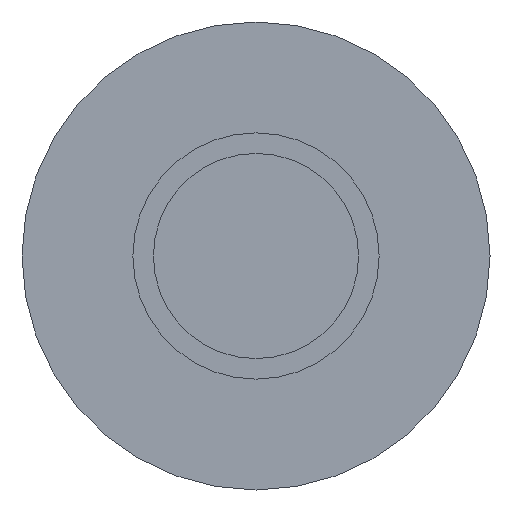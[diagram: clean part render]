
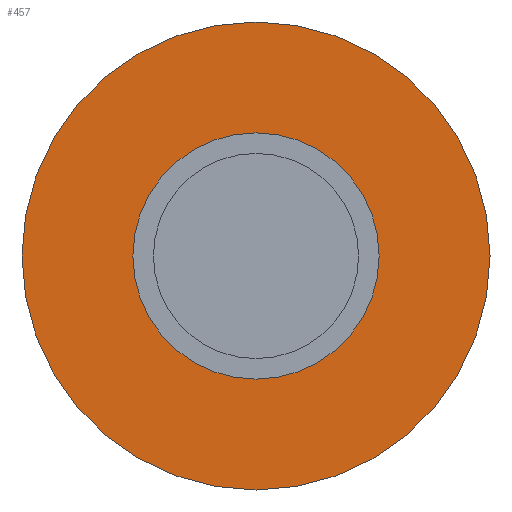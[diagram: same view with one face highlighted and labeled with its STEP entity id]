
A CAD part, front view. The second image highlights one B-rep face of the part: STEP entity #457.
In plain terms, the highlighted planar face has unit normal (0, -1, 0).
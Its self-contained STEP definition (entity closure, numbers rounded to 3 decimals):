
#33 = CYLINDRICAL_SURFACE('',#34,1.5);
#34 = AXIS2_PLACEMENT_3D('',#35,#36,#37);
#35 = CARTESIAN_POINT('',(0.,-37.55,0.));
#36 = DIRECTION('',(0.,1.,0.));
#37 = DIRECTION('',(0.,-0.,1.));
#58 = VERTEX_POINT('',#59);
#59 = CARTESIAN_POINT('',(0.,0.,-1.5));
#73 = CYLINDRICAL_SURFACE('',#74,1.5);
#74 = AXIS2_PLACEMENT_3D('',#75,#76,#77);
#75 = CARTESIAN_POINT('',(0.,-37.55,0.));
#76 = DIRECTION('',(0.,1.,0.));
#77 = DIRECTION('',(0.,-0.,1.));
#85 = EDGE_CURVE('',#58,#86,#88,.T.);
#86 = VERTEX_POINT('',#87);
#87 = CARTESIAN_POINT('',(0.,0.,1.5));
#88 = SURFACE_CURVE('',#89,(#94,#101),.PCURVE_S1.);
#89 = CIRCLE('',#90,1.5);
#90 = AXIS2_PLACEMENT_3D('',#91,#92,#93);
#91 = CARTESIAN_POINT('',(0.,0.,0.));
#92 = DIRECTION('',(0.,-1.,0.));
#93 = DIRECTION('',(0.,0.,1.));
#94 = PCURVE('',#33,#95);
#95 = DEFINITIONAL_REPRESENTATION('',(#96),#100);
#96 = LINE('',#97,#98);
#97 = CARTESIAN_POINT('',(6.283,37.55));
#98 = VECTOR('',#99,1.);
#99 = DIRECTION('',(-1.,0.));
#100 = ( GEOMETRIC_REPRESENTATION_CONTEXT(2) 
PARAMETRIC_REPRESENTATION_CONTEXT() REPRESENTATION_CONTEXT('2D SPACE',''
  ) );
#101 = PCURVE('',#102,#107);
#102 = PLANE('',#103);
#103 = AXIS2_PLACEMENT_3D('',#104,#105,#106);
#104 = CARTESIAN_POINT('',(0.,0.,0.));
#105 = DIRECTION('',(0.,1.,0.));
#106 = DIRECTION('',(0.,-0.,1.));
#107 = DEFINITIONAL_REPRESENTATION('',(#108),#116);
#108 = ( BOUNDED_CURVE() B_SPLINE_CURVE(2,(#109,#110,#111,#112,#113,#114
,#115),.UNSPECIFIED.,.T.,.F.) B_SPLINE_CURVE_WITH_KNOTS((1,2,2,2,2,1),(
    -2.094,0.,2.094,4.189,6.283,
8.378),.UNSPECIFIED.) CURVE() GEOMETRIC_REPRESENTATION_ITEM() 
RATIONAL_B_SPLINE_CURVE((1.,0.5,1.,0.5,1.,0.5,1.)) REPRESENTATION_ITEM(
  '') );
#109 = CARTESIAN_POINT('',(1.5,0.));
#110 = CARTESIAN_POINT('',(1.5,-2.598));
#111 = CARTESIAN_POINT('',(-0.75,-1.299));
#112 = CARTESIAN_POINT('',(-3.,0.));
#113 = CARTESIAN_POINT('',(-0.75,1.299));
#114 = CARTESIAN_POINT('',(1.5,2.598));
#115 = CARTESIAN_POINT('',(1.5,0.));
#116 = ( GEOMETRIC_REPRESENTATION_CONTEXT(2) 
PARAMETRIC_REPRESENTATION_CONTEXT() REPRESENTATION_CONTEXT('2D SPACE',''
  ) );
#258 = EDGE_CURVE('',#259,#261,#263,.T.);
#259 = VERTEX_POINT('',#260);
#260 = CARTESIAN_POINT('',(0.,0.,2.85));
#261 = VERTEX_POINT('',#262);
#262 = CARTESIAN_POINT('',(0.,0.,-2.85));
#263 = SURFACE_CURVE('',#264,(#269,#281),.PCURVE_S1.);
#264 = CIRCLE('',#265,2.85);
#265 = AXIS2_PLACEMENT_3D('',#266,#267,#268);
#266 = CARTESIAN_POINT('',(0.,0.,0.));
#267 = DIRECTION('',(0.,1.,0.));
#268 = DIRECTION('',(0.,-0.,1.));
#269 = PCURVE('',#270,#275);
#270 = CYLINDRICAL_SURFACE('',#271,2.85);
#271 = AXIS2_PLACEMENT_3D('',#272,#273,#274);
#272 = CARTESIAN_POINT('',(0.,0.,0.));
#273 = DIRECTION('',(0.,1.,0.));
#274 = DIRECTION('',(0.,-0.,1.));
#275 = DEFINITIONAL_REPRESENTATION('',(#276),#280);
#276 = LINE('',#277,#278);
#277 = CARTESIAN_POINT('',(0.,0.));
#278 = VECTOR('',#279,1.);
#279 = DIRECTION('',(1.,0.));
#280 = ( GEOMETRIC_REPRESENTATION_CONTEXT(2) 
PARAMETRIC_REPRESENTATION_CONTEXT() REPRESENTATION_CONTEXT('2D SPACE',''
  ) );
#281 = PCURVE('',#102,#282);
#282 = DEFINITIONAL_REPRESENTATION('',(#283),#287);
#283 = CIRCLE('',#284,2.85);
#284 = AXIS2_PLACEMENT_2D('',#285,#286);
#285 = CARTESIAN_POINT('',(0.,0.));
#286 = DIRECTION('',(1.,0.));
#287 = ( GEOMETRIC_REPRESENTATION_CONTEXT(2) 
PARAMETRIC_REPRESENTATION_CONTEXT() REPRESENTATION_CONTEXT('2D SPACE',''
  ) );
#305 = CYLINDRICAL_SURFACE('',#306,2.85);
#306 = AXIS2_PLACEMENT_3D('',#307,#308,#309);
#307 = CARTESIAN_POINT('',(0.,0.,0.));
#308 = DIRECTION('',(0.,1.,0.));
#309 = DIRECTION('',(0.,-0.,1.));
#398 = EDGE_CURVE('',#86,#58,#399,.T.);
#399 = SURFACE_CURVE('',#400,(#405,#412),.PCURVE_S1.);
#400 = CIRCLE('',#401,1.5);
#401 = AXIS2_PLACEMENT_3D('',#402,#403,#404);
#402 = CARTESIAN_POINT('',(0.,0.,0.));
#403 = DIRECTION('',(0.,-1.,0.));
#404 = DIRECTION('',(0.,0.,1.));
#405 = PCURVE('',#73,#406);
#406 = DEFINITIONAL_REPRESENTATION('',(#407),#411);
#407 = LINE('',#408,#409);
#408 = CARTESIAN_POINT('',(6.283,37.55));
#409 = VECTOR('',#410,1.);
#410 = DIRECTION('',(-1.,0.));
#411 = ( GEOMETRIC_REPRESENTATION_CONTEXT(2) 
PARAMETRIC_REPRESENTATION_CONTEXT() REPRESENTATION_CONTEXT('2D SPACE',''
  ) );
#412 = PCURVE('',#102,#413);
#413 = DEFINITIONAL_REPRESENTATION('',(#414),#422);
#414 = ( BOUNDED_CURVE() B_SPLINE_CURVE(2,(#415,#416,#417,#418,#419,#420
,#421),.UNSPECIFIED.,.T.,.F.) B_SPLINE_CURVE_WITH_KNOTS((1,2,2,2,2,1),(
    -2.094,0.,2.094,4.189,6.283,
8.378),.UNSPECIFIED.) CURVE() GEOMETRIC_REPRESENTATION_ITEM() 
RATIONAL_B_SPLINE_CURVE((1.,0.5,1.,0.5,1.,0.5,1.)) REPRESENTATION_ITEM(
  '') );
#415 = CARTESIAN_POINT('',(1.5,0.));
#416 = CARTESIAN_POINT('',(1.5,-2.598));
#417 = CARTESIAN_POINT('',(-0.75,-1.299));
#418 = CARTESIAN_POINT('',(-3.,0.));
#419 = CARTESIAN_POINT('',(-0.75,1.299));
#420 = CARTESIAN_POINT('',(1.5,2.598));
#421 = CARTESIAN_POINT('',(1.5,0.));
#422 = ( GEOMETRIC_REPRESENTATION_CONTEXT(2) 
PARAMETRIC_REPRESENTATION_CONTEXT() REPRESENTATION_CONTEXT('2D SPACE',''
  ) );
#457 = ADVANCED_FACE('',(#458,#462),#102,.F.);
#458 = FACE_BOUND('',#459,.T.);
#459 = EDGE_LOOP('',(#460,#461));
#460 = ORIENTED_EDGE('',*,*,#398,.F.);
#461 = ORIENTED_EDGE('',*,*,#85,.F.);
#462 = FACE_BOUND('',#463,.T.);
#463 = EDGE_LOOP('',(#464,#465));
#464 = ORIENTED_EDGE('',*,*,#258,.F.);
#465 = ORIENTED_EDGE('',*,*,#466,.F.);
#466 = EDGE_CURVE('',#261,#259,#467,.T.);
#467 = SURFACE_CURVE('',#468,(#473,#480),.PCURVE_S1.);
#468 = CIRCLE('',#469,2.85);
#469 = AXIS2_PLACEMENT_3D('',#470,#471,#472);
#470 = CARTESIAN_POINT('',(0.,0.,0.));
#471 = DIRECTION('',(0.,1.,0.));
#472 = DIRECTION('',(0.,-0.,1.));
#473 = PCURVE('',#102,#474);
#474 = DEFINITIONAL_REPRESENTATION('',(#475),#479);
#475 = CIRCLE('',#476,2.85);
#476 = AXIS2_PLACEMENT_2D('',#477,#478);
#477 = CARTESIAN_POINT('',(0.,0.));
#478 = DIRECTION('',(1.,0.));
#479 = ( GEOMETRIC_REPRESENTATION_CONTEXT(2) 
PARAMETRIC_REPRESENTATION_CONTEXT() REPRESENTATION_CONTEXT('2D SPACE',''
  ) );
#480 = PCURVE('',#305,#481);
#481 = DEFINITIONAL_REPRESENTATION('',(#482),#486);
#482 = LINE('',#483,#484);
#483 = CARTESIAN_POINT('',(0.,0.));
#484 = VECTOR('',#485,1.);
#485 = DIRECTION('',(1.,0.));
#486 = ( GEOMETRIC_REPRESENTATION_CONTEXT(2) 
PARAMETRIC_REPRESENTATION_CONTEXT() REPRESENTATION_CONTEXT('2D SPACE',''
  ) );
